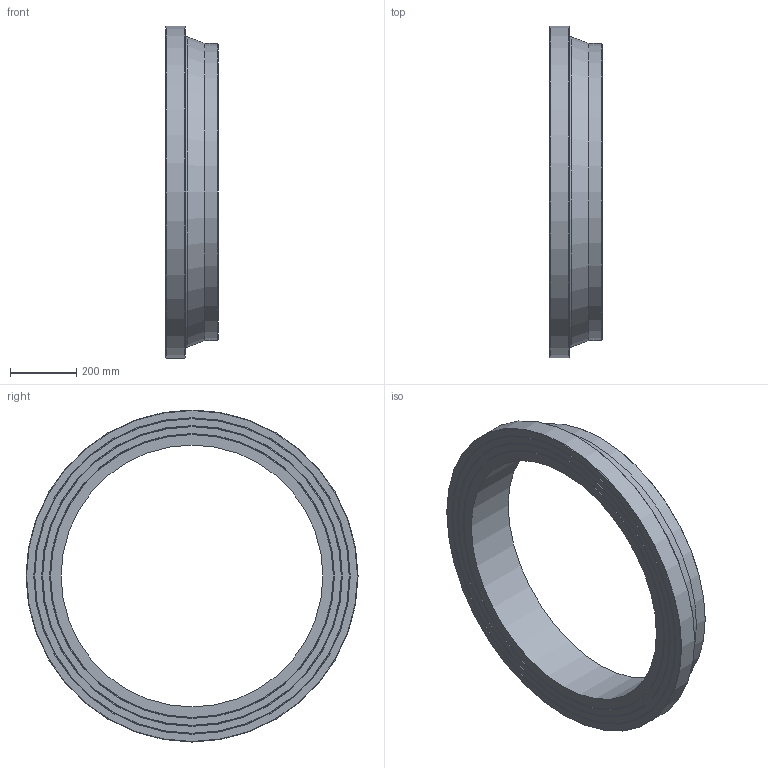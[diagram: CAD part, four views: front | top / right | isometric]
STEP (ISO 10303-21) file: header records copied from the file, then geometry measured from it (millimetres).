
FILE_DESCRIPTION(/* description */ ('Unknown'),/* implementation_level */ '2;1');
FILE_NAME(/* name */ 'CCP900B',/* time_stamp */ '2022-04-05T09:01:42+02:00',/* author */ ('Unknown'),/* organization */ ('Unknown'),/* preprocessor_version */ 'ST-DEVELOPER v18.1',/* originating_system */ 'Solid Edge',/* authorisation */ 'Unknown');
FILE_SCHEMA (('AUTOMOTIVE_DESIGN {1 0 10303 214 3 1 1}'));
Length unit declared in the file: millimetre
Products named in the file (1): CCP900B
Bounding box: 158 x 1006 x 1006 mm (x, y, z)
Volume: 33614340.8 mm3; surface area: 1405283.2 mm2
Topology: 1 solids, 1 shells, 20 faces, 35 edges, 21 vertices
Faces by surface type: cone 10, plane 6, cylinder 3, torus 1
Full cylindrical faces by diameter (mm): 793.4 x1, 900 x1, 1006 x1
Entity records: 438 total; most frequent: DIRECTION 82, CARTESIAN_POINT 61, AXIS2_PLACEMENT_3D 41, ORIENTED_EDGE 40, EDGE_LOOP 40, FACE_BOUND 40, EDGE_CURVE 20, VERTEX_POINT 20
